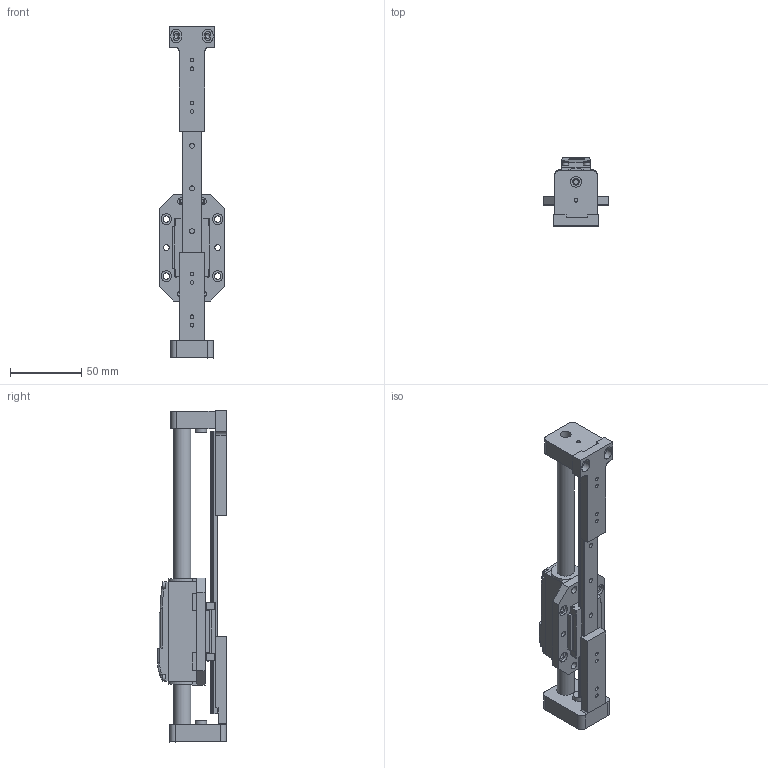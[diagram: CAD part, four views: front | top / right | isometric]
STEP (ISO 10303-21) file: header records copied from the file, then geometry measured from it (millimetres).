
FILE_DESCRIPTION(('FreeCAD Model'),'2;1');
FILE_NAME('C:/Users/Patrik/Desktop/FreeCAD/0000-0200 Lineární aktuátor, LM statický/LA_LMMR-09-120.step','2019-04-22T20:13:36',('Author'),(''), 'Open CASCADE STEP processor 7.3','FreeCAD','Unknown');
FILE_SCHEMA(('AUTOMOTIVE_DESIGN { 1 0 10303 214 1 1 1 1 }'));
Length unit declared in the file: millimetre
Products named in the file (14): Zdvih_120; Static; Alle_Motoren003; LG013; LG012; Chamfer; Moving; Alle_Motoren; Pocket003; LG011; Body; Body010; _K0571.00800855; _K0571.00800856
Assembly tree (13 placements, depth 4):
  Zdvih_120
    Static
      Alle_Motoren003
      LG013
        LG012
      Chamfer
    Moving
      Alle_Motoren
      Pocket003
      LG011
      Body
      Body010
      _K0571.00800855
      _K0571.00800856
Bounding box: 46 x 48.4 x 233 mm (x, y, z)
Volume: 129053.5 mm3; surface area: 59435.9 mm2
Topology: 10 solids, 10 shells, 571 faces, 1422 edges, 930 vertices
Faces by surface type: plane 307, cylinder 227, cone 21, revolution 8, torus 6, extrusion 2
Full cylindrical faces by diameter (mm): 2.05 x4, 2.5 x10, 3 x6, 3.3 x8, 3.5 x4, 4 x5, 4.5 x8, 4.6 x2, 5 x4, 6 x4, 7.5 x8, 7.7 x2, 8 x2, 9 x2, 12 x1, 12.08 x1, 12.4 x2, 19.9 x2
Entity records: 37673 total; most frequent: CARTESIAN_POINT 8997, DIRECTION 5293, VECTOR 2982, LINE 2980, ORIENTED_EDGE 2810, PCURVE 2810, DEFINITIONAL_REPRESENTATION 2810, EDGE_CURVE 1405
